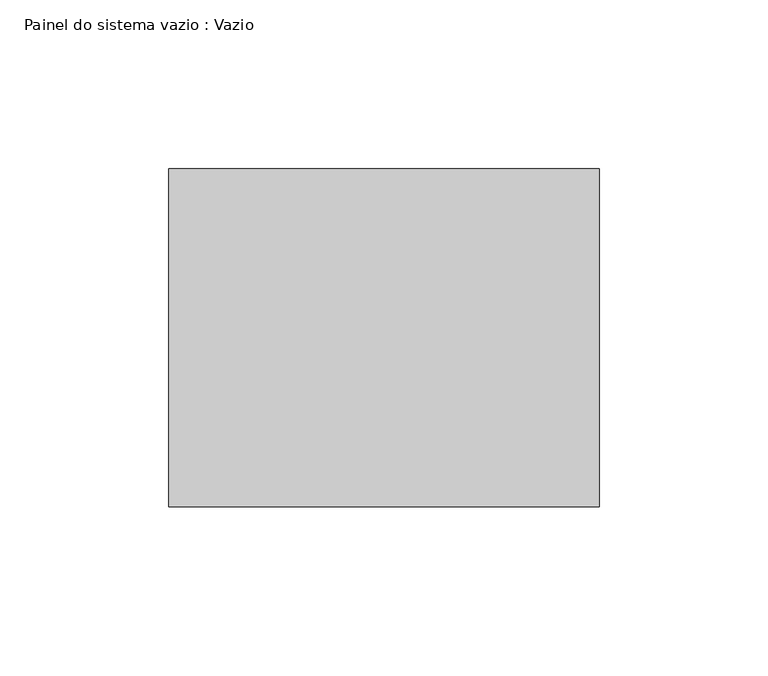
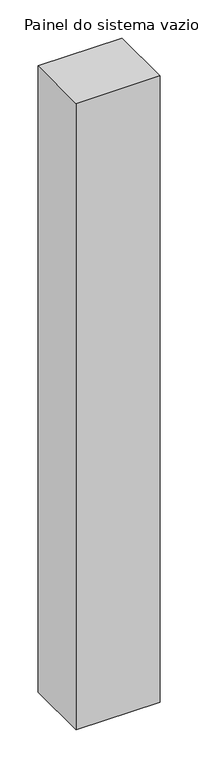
"""IFC4 building model written with IfcOpenShell, lengths in millimetres: plate geometry, Painel do sistema vazio : Vazio."""

from ifc_helpers import new_model, si_unit, origin, origin_with_axes, place, context, project, spatial, polyline, outline, extrude, source, transform, mapped, element, save


def painel_do_sistema_vazio_vazio_5b504051(model_context):
    return source(origin(), model_context, "Body", "SweptSolid", [
        extrude(outline(polyline([(63.7154572, -50.0), (-63.7154572, -50.0), (-63.7154572, 50.0), (63.7154572, 50.0), (63.7154572, -50.0)])), origin_with_axes(), (0.0, 0.0, 1.0), 1005.0),
    ])


if __name__ == "__main__":
    model = new_model("IFC4")
    model_context = context("Model", 3, world=origin())
    ifc_project = project(units=[si_unit("LENGTHUNIT", "METRE", prefix="MILLI")], contexts=[model_context])
    site = spatial("IfcSite", under=ifc_project)
    building = spatial("IfcBuilding", under=site)
    placement = place(None, origin())
    painel_do_sistema_vazio_vazio_shape = painel_do_sistema_vazio_vazio_5b504051(model_context)
    element("IfcPlate", 1, ObjectType="Painel do sistema vazio : Vazio", at=placement, inside=building, context=model_context, shape_type="MappedRepresentation", body=[
        mapped(painel_do_sistema_vazio_vazio_shape, transform((0.0, 0.0, 0.0), x_axis=(1.0, 0.0, 0.0), y_axis=(0.0, 1.0, 0.0), z_axis=(0.0, 0.0, 1.0))),
    ])
    save(model, "model.ifc")
